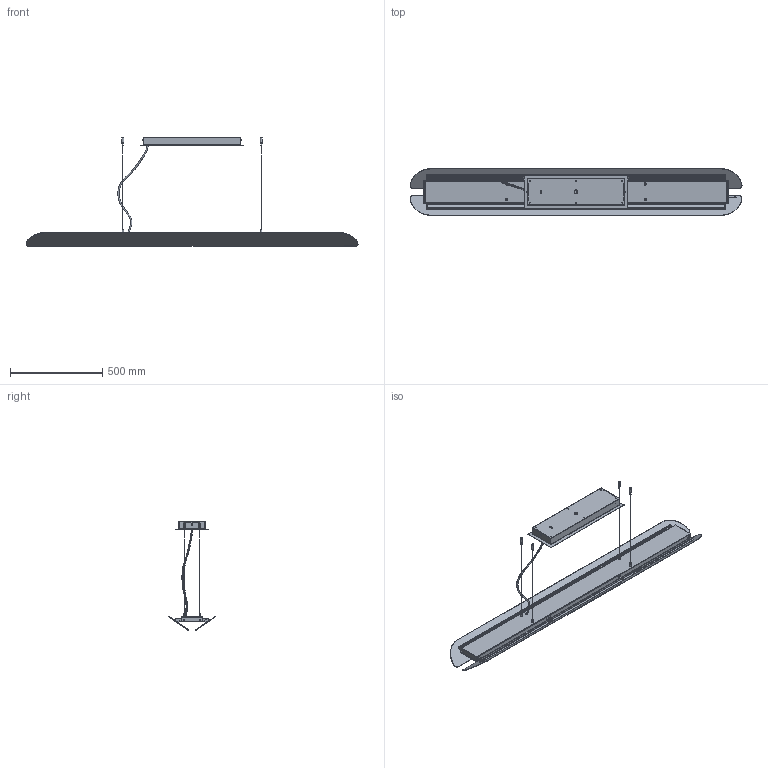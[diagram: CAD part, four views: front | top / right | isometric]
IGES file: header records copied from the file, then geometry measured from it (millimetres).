
Start section: SolidWorks IGES file using analytic representation for surfaces
Global section: file name: C:\VaultDeCastelli\Progetti\DC\PESO LEGGERO PRODOTTI\Ale\DeCastelli-3D-Aare ceiling 180.igs; native system: SolidWorks 2022; preprocessor: SolidWorks 2022; author: AlessandroP; date: 240719.130036; units: millimetre
Bounding box: 1800 x 254.1 x 590.47 mm (x, y, z)
Surface area: 2344247.3 mm2 (no closed solid volume)
Topology: 0 solids, 0 shells, 677 faces, 13627 edges, 13621 vertices
Faces by surface type: bspline 522, revolution 155
